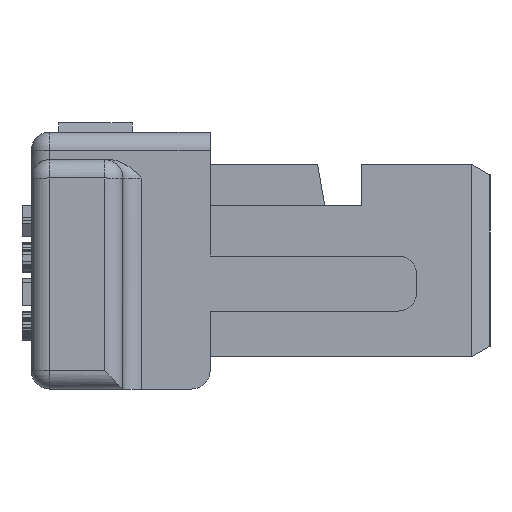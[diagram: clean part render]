
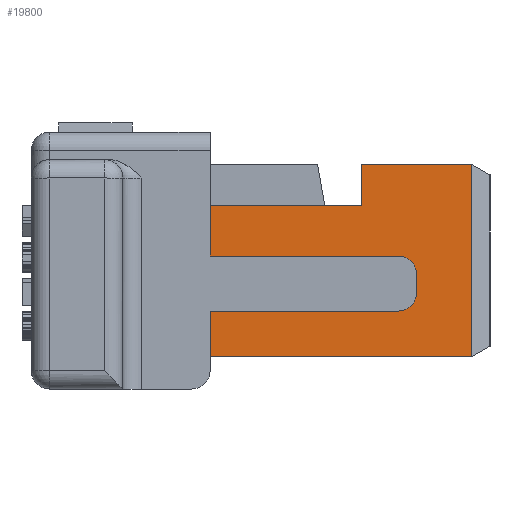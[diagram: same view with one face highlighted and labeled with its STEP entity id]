
A CAD part, left-side view. The second image highlights one B-rep face of the part: STEP entity #19800.
In plain terms, the highlighted planar face has unit normal (-1, 0, 0).
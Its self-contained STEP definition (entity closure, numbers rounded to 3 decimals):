
#1678=DIRECTION('',(0.,0.,1.));
#1679=VECTOR('',#1678,2.1);
#1680=CARTESIAN_POINT('',(1.3,-4.8,-2.45));
#1681=LINE('',#1680,#1679);
#1686=DIRECTION('',(0.,1.,0.));
#1687=VECTOR('',#1686,2.85);
#1688=CARTESIAN_POINT('',(1.3,-4.8,-2.45));
#1689=LINE('',#1688,#1687);
#1690=DIRECTION('',(0.,0.,1.));
#1691=VECTOR('',#1690,0.5);
#1692=CARTESIAN_POINT('',(1.3,-1.95,-2.45));
#1693=LINE('',#1692,#1691);
#1694=DIRECTION('',(0.,-1.,0.));
#1695=VECTOR('',#1694,2.05);
#1696=CARTESIAN_POINT('',(1.3,-1.95,-1.95));
#1697=LINE('',#1696,#1695);
#1698=CARTESIAN_POINT('',(1.3,-4.,-1.75));
#1699=DIRECTION('',(-1.,0.,0.));
#1700=DIRECTION('',(0.,0.,-1.));
#1701=AXIS2_PLACEMENT_3D('',#1698,#1699,#1700);
#1703=DIRECTION('',(0.,0.,1.));
#1704=VECTOR('',#1703,0.2);
#1705=CARTESIAN_POINT('',(1.3,-4.2,-1.75));
#1706=LINE('',#1705,#1704);
#1707=CARTESIAN_POINT('',(1.3,-4.,-1.55));
#1708=DIRECTION('',(-1.,0.,0.));
#1709=DIRECTION('',(0.,-1.,0.));
#1710=AXIS2_PLACEMENT_3D('',#1707,#1708,#1709);
#1712=DIRECTION('',(0.,1.,0.));
#1713=VECTOR('',#1712,2.05);
#1714=CARTESIAN_POINT('',(1.3,-4.,-1.35));
#1715=LINE('',#1714,#1713);
#1716=DIRECTION('',(0.,0.,1.));
#1717=VECTOR('',#1716,0.55);
#1718=CARTESIAN_POINT('',(1.3,-1.95,-1.35));
#1719=LINE('',#1718,#1717);
#1720=DIRECTION('',(0.,0.,1.));
#1721=VECTOR('',#1720,0.45);
#1722=CARTESIAN_POINT('',(1.3,-3.6,-0.8));
#1723=LINE('',#1722,#1721);
#1724=DIRECTION('',(0.,-1.,0.));
#1725=VECTOR('',#1724,1.2);
#1726=CARTESIAN_POINT('',(1.3,-3.6,-0.35));
#1727=LINE('',#1726,#1725);
#2114=DIRECTION('',(0.,1.,0.));
#2115=VECTOR('',#2114,1.65);
#2116=CARTESIAN_POINT('',(1.3,-3.6,-0.8));
#2117=LINE('',#2116,#2115);
#14843=CARTESIAN_POINT('',(1.3,-4.8,-2.45));
#14845=VERTEX_POINT('',#14843);
#15070=CARTESIAN_POINT('',(1.3,-1.95,-2.45));
#15071=VERTEX_POINT('',#15070);
#15076=CARTESIAN_POINT('',(1.3,-4.8,-0.35));
#15077=VERTEX_POINT('',#15076);
#15080=CARTESIAN_POINT('',(1.3,-1.95,-1.95));
#15081=VERTEX_POINT('',#15080);
#15082=CARTESIAN_POINT('',(1.3,-4.,-1.95));
#15083=VERTEX_POINT('',#15082);
#15084=CARTESIAN_POINT('',(1.3,-4.2,-1.75));
#15085=VERTEX_POINT('',#15084);
#15086=CARTESIAN_POINT('',(1.3,-4.2,-1.55));
#15087=VERTEX_POINT('',#15086);
#15088=CARTESIAN_POINT('',(1.3,-4.,-1.35));
#15089=VERTEX_POINT('',#15088);
#15090=CARTESIAN_POINT('',(1.3,-1.95,-1.35));
#15091=VERTEX_POINT('',#15090);
#15092=CARTESIAN_POINT('',(1.3,-1.95,-0.8));
#15093=VERTEX_POINT('',#15092);
#15094=CARTESIAN_POINT('',(1.3,-3.6,-0.8));
#15095=VERTEX_POINT('',#15094);
#15096=CARTESIAN_POINT('',(1.3,-3.6,-0.35));
#15097=VERTEX_POINT('',#15096);
#19771=CARTESIAN_POINT('',(1.3,0.,0.));
#19772=DIRECTION('',(-1.,0.,0.));
#19773=DIRECTION('',(0.,0.,1.));
#19774=AXIS2_PLACEMENT_3D('',#19771,#19772,#19773);
#19775=PLANE('',#19774);
#19776=ORIENTED_EDGE('',*,*,#19761,.F.);
#19777=ORIENTED_EDGE('',*,*,#19736,.T.);
#19779=ORIENTED_EDGE('',*,*,#19778,.T.);
#19781=ORIENTED_EDGE('',*,*,#19780,.T.);
#19783=ORIENTED_EDGE('',*,*,#19782,.T.);
#19785=ORIENTED_EDGE('',*,*,#19784,.T.);
#19787=ORIENTED_EDGE('',*,*,#19786,.T.);
#19789=ORIENTED_EDGE('',*,*,#19788,.T.);
#19791=ORIENTED_EDGE('',*,*,#19790,.T.);
#19793=ORIENTED_EDGE('',*,*,#19792,.F.);
#19795=ORIENTED_EDGE('',*,*,#19794,.T.);
#19797=ORIENTED_EDGE('',*,*,#19796,.T.);
#19798=EDGE_LOOP('',(#19776,#19777,#19779,#19781,#19783,#19785,#19787,#19789,
#19791,#19793,#19795,#19797));
#19799=FACE_OUTER_BOUND('',#19798,.F.);
#19800=ADVANCED_FACE('',(#19799),#19775,.T.);
#1702=CIRCLE('',#1701,0.2);
#1711=CIRCLE('',#1710,0.2);
#19736=EDGE_CURVE('',#14845,#15071,#1689,.T.);
#19761=EDGE_CURVE('',#14845,#15077,#1681,.T.);
#19778=EDGE_CURVE('',#15071,#15081,#1693,.T.);
#19780=EDGE_CURVE('',#15081,#15083,#1697,.T.);
#19782=EDGE_CURVE('',#15083,#15085,#1702,.T.);
#19784=EDGE_CURVE('',#15085,#15087,#1706,.T.);
#19786=EDGE_CURVE('',#15087,#15089,#1711,.T.);
#19788=EDGE_CURVE('',#15089,#15091,#1715,.T.);
#19790=EDGE_CURVE('',#15091,#15093,#1719,.T.);
#19792=EDGE_CURVE('',#15095,#15093,#2117,.T.);
#19794=EDGE_CURVE('',#15095,#15097,#1723,.T.);
#19796=EDGE_CURVE('',#15097,#15077,#1727,.T.);
